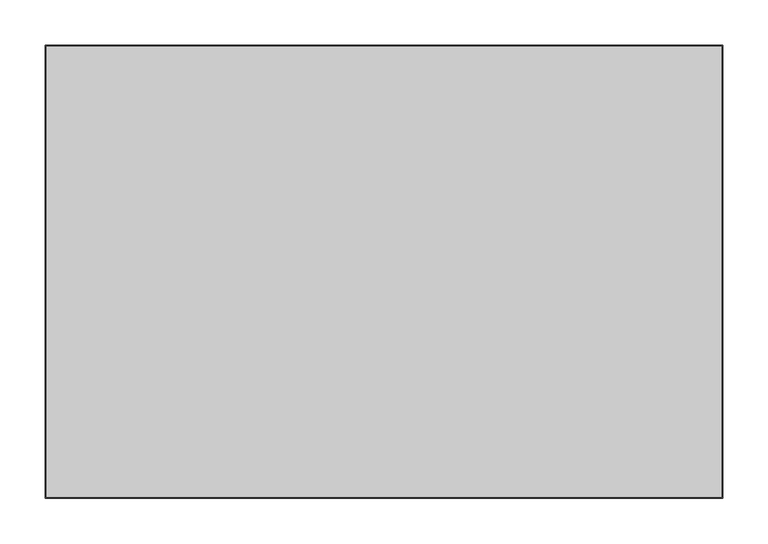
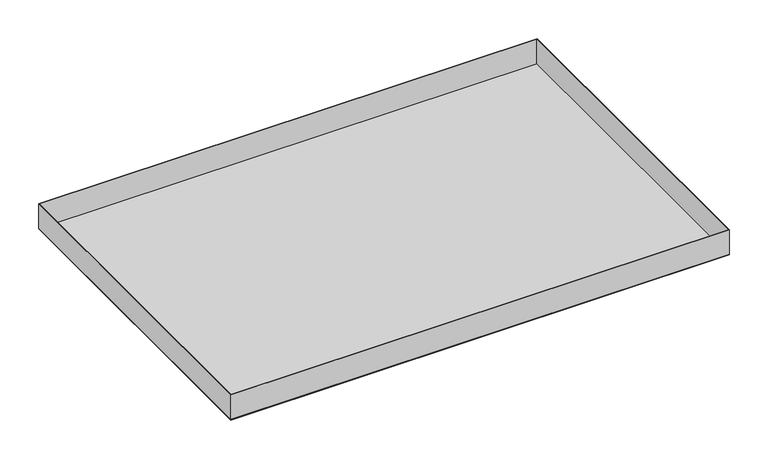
"""IFC4 building model written with IfcOpenShell, lengths in millimetres: proxy geometry, durlum_S5-100_RHOMBOS_panel : durlum_S5-100_RHOMBOS_panel_wall_corner."""

from ifc_helpers import new_model, si_unit, frame, origin, origin_with_axes, place, context, project, spatial, polyline, outline, extrude, source, transform, mapped, element, save


def generic_models_8e456d97(model_context):
    return source(origin(), model_context, "Body", "SweptSolid", [
        extrude(outline(polyline([(373.5, 249.75), (373.5, -249.75), (-373.5, -249.75), (-373.5, 249.75), (373.5, 249.75)]), holes=[polyline([(372.5, 248.75), (-372.5, 248.75), (-372.5, -248.75), (372.5, -248.75), (372.5, 248.75)])]), frame((0.0, 0.0, 1.0), z_axis=(0.0, 0.0, 1.0), x_axis=(1.0, 0.0, 0.0)), (0.0, 0.0, 1.0), 39.0),
        extrude(outline(polyline([(373.5, 249.75), (373.5, -249.75), (-373.5, -249.75), (-373.5, 249.75), (373.5, 249.75)])), origin_with_axes(), (0.0, 0.0, 1.0), 1.0),
    ])


if __name__ == "__main__":
    model = new_model("IFC4")
    model_context = context("Model", 3, world=origin())
    ifc_project = project(units=[si_unit("LENGTHUNIT", "METRE", prefix="MILLI")], contexts=[model_context])
    site = spatial("IfcSite", under=ifc_project)
    building = spatial("IfcBuilding", under=site)
    placement = place(None, origin())
    generic_models_shape = generic_models_8e456d97(model_context)
    element("IfcBuildingElementProxy", 1, Name="durlum_S5-100_RHOMBOS_panel : durlum_S5-100_RHOMBOS_panel_wall_corner", ObjectType="durlum_S5-100_RHOMBOS_panel : durlum_S5-100_RHOMBOS_panel_wall_corner", at=placement, inside=building, context=model_context, shape_type="MappedRepresentation", body=[
        mapped(generic_models_shape, transform((0.0, 0.0, 0.0), x_axis=(1.0, 0.0, 0.0), y_axis=(0.0, 1.0, 0.0), z_axis=(0.0, 0.0, 1.0))),
    ])
    save(model, "model.ifc")
